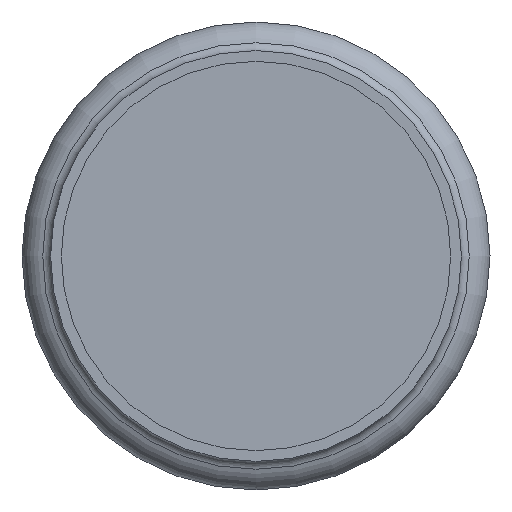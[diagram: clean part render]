
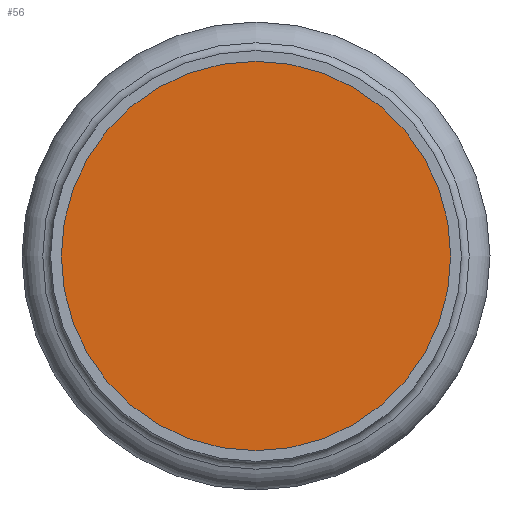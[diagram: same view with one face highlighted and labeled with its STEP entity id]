
A CAD part, front view. The second image highlights one B-rep face of the part: STEP entity #56.
In plain terms, the highlighted planar face has unit normal (0, -1, 0).
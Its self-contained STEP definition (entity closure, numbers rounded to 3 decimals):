
#56=ADVANCED_FACE('',(#99),#101,.T.);
#99=FACE_BOUND('',#100,.T.);
#100=EDGE_LOOP('',(#264));
#101=PLANE('',#102);
#102=AXIS2_PLACEMENT_3D('',#103,#104,#105);
#103=CARTESIAN_POINT('',(0.,11.708,0.));
#104=DIRECTION('',(0.,-1.,0.));
#105=DIRECTION('',(0.,0.,-1.));
#264=ORIENTED_EDGE('',*,*,#301,.T.);
#301=EDGE_CURVE('',#323,#323,#324,.F.);
#323=VERTEX_POINT('',#369);
#324=CIRCLE('',#370,27.2);
#369=CARTESIAN_POINT('',(0.,11.708,27.2));
#370=AXIS2_PLACEMENT_3D('',#371,#372,#373);
#371=CARTESIAN_POINT('',(0.,11.708,0.));
#372=DIRECTION('',(0.,1.,0.));
#373=DIRECTION('',(0.,0.,1.));
